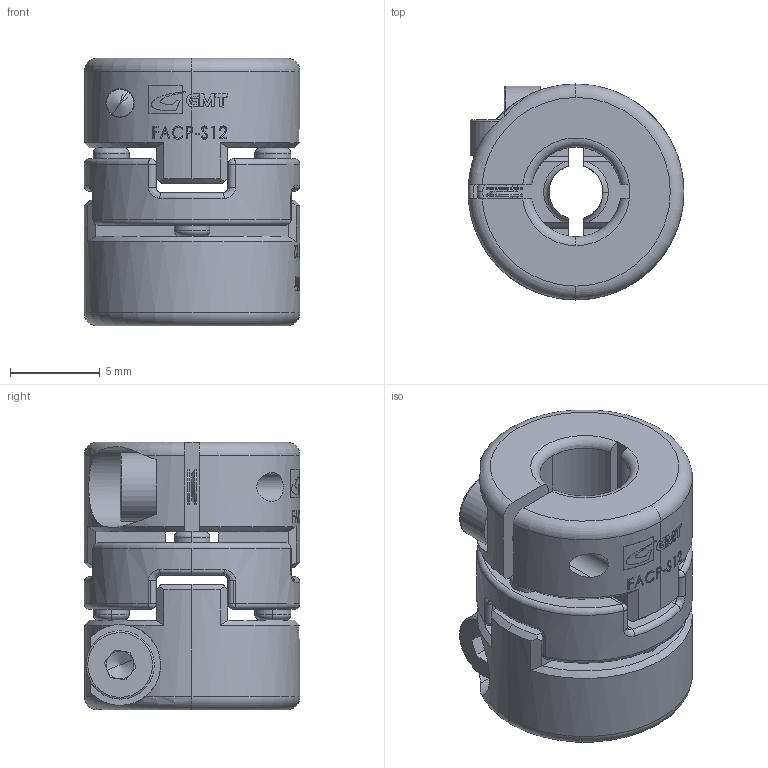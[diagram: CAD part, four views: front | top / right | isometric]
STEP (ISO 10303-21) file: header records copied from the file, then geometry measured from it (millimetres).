
FILE_DESCRIPTION (( 'STEP AP203' ), '1' );
FILE_NAME ('FACP-S12.STEP', '2008-04-05T01:31:38', ( '陳志豪' ), ( '高明鐵企業股份有限公司' ), 'SwSTEP 2.0', 'SolidWorks 2007', '' );
FILE_SCHEMA (( 'CONFIG_CONTROL_DESIGN' ));
Length unit declared in the file: millimetre
Products named in the file (1): FACP-S12
Bounding box: 12 x 12 x 14.9 mm (x, y, z)
Surface area: 1541.4 mm2 (no closed solid volume)
Topology: 0 solids, 11 shells, 476 faces, 1636 edges, 1092 vertices
Faces by surface type: plane 175, bspline 125, cylinder 108, torus 34, cone 24, sphere 10
Entity records: 21353 total; most frequent: CARTESIAN_POINT 8989, ORIENTED_EDGE 2701, DIRECTION 2025, EDGE_CURVE 1620, VERTEX_POINT 1088, AXIS2_PLACEMENT_3D 782, B_SPLINE_CURVE_WITH_KNOTS 729, EDGE_LOOP 516
